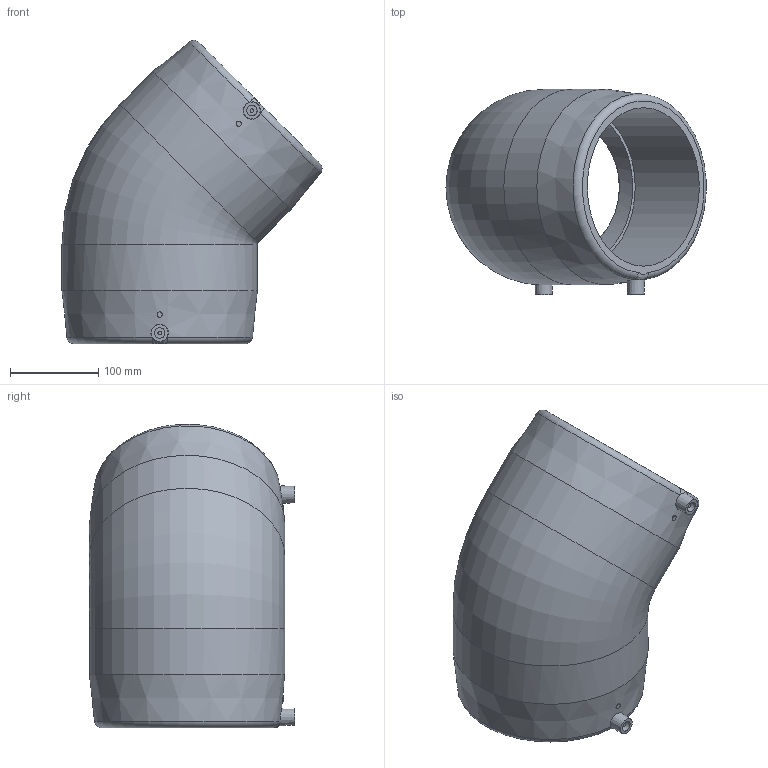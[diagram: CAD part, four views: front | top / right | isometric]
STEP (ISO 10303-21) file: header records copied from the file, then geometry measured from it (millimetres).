
FILE_DESCRIPTION(/* description */ ('Unknown'),/* implementation_level */ '2;1');
FILE_NAME(/* name */ 'GE4P180C',/* time_stamp */ '2021-01-25T14:50:56+01:00',/* author */ ('Unknown'),/* organization */ ('Unknown'),/* preprocessor_version */ 'ST-DEVELOPER v16.7',/* originating_system */ 'Solid Edge',/* authorisation */ 'Unknown');
FILE_SCHEMA (('AUTOMOTIVE_DESIGN {1 0 10303 214 3 1 1}'));
Length unit declared in the file: millimetre
Products named in the file (1): GE4P180C
Bounding box: 295.34 x 233 x 344.34 mm (x, y, z)
Volume: 4174923.4 mm3; surface area: 416110.7 mm2
Topology: 1 solids, 1 shells, 34 faces, 74 edges, 50 vertices
Faces by surface type: plane 12, cylinder 12, cone 4, torus 4, bspline 2
Full cylindrical faces by diameter (mm): 4 x2, 6 x2, 12 x2, 172 x2, 180 x2, 222 x2
Entity records: 936 total; most frequent: CARTESIAN_POINT 298, DIRECTION 132, ORIENTED_EDGE 90, AXIS2_PLACEMENT_3D 66, EDGE_LOOP 61, FACE_BOUND 61, EDGE_CURVE 45, VERTEX_POINT 38
